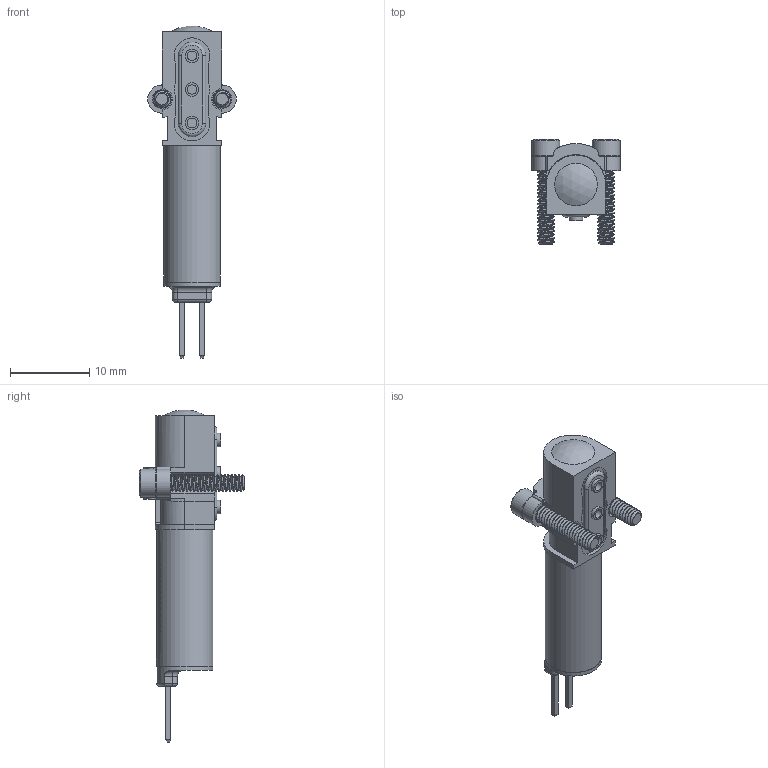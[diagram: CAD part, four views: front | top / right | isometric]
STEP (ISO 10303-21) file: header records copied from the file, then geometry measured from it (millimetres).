
FILE_DESCRIPTION (( 'STEP AP214' ), '1' );
FILE_NAME ('1X HDI-FMT.STEP', '2024-06-18T14:37:39', ( '' ), ( '' ), 'SwSTEP 2.0', 'SolidWorks 2023', '' );
FILE_SCHEMA (( 'AUTOMOTIVE_DESIGN' ));
Length unit declared in the file: inch
Products named in the file (4): 2X SCREW BRACKET^1X HDI-FMT; 1X HDI-FMT; BHCS-#2-56^1X HDI-FMT; SOV^1X HDI-FMT
Assembly tree (4 placements, depth 2):
  1X HDI-FMT
    SOV^1X HDI-FMT
    2X SCREW BRACKET^1X HDI-FMT
    BHCS-#2-56^1X HDI-FMT  x2
Bounding box: 11.18 x 13.3 x 41.95 mm (x, y, z)
Volume: 1535.7 mm3; surface area: 1639 mm2
Topology: 5 solids, 5 shells, 712 faces, 1890 edges, 1244 vertices
Faces by surface type: bspline 295, plane 275, cylinder 114, cone 18, torus 9, sphere 1
Full cylindrical faces by diameter (mm): 1.194 x3, 1.702 x6, 2.388 x2, 3.556 x2, 7.087 x1, 7.137 x2
Entity records: 28607 total; most frequent: CARTESIAN_POINT 14034, ORIENTED_EDGE 3638, DIRECTION 1833, EDGE_CURVE 1819, VERTEX_POINT 1211, B_SPLINE_CURVE_WITH_KNOTS 1020, EDGE_LOOP 770, FACE_OUTER_BOUND 703
